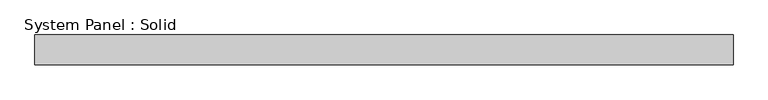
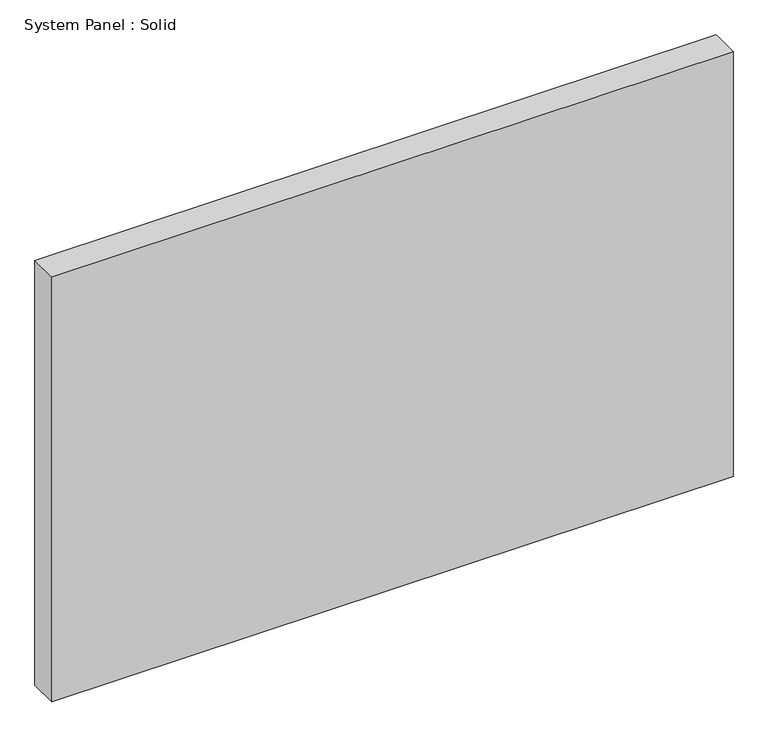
"""IFC4 building model written with IfcOpenShell, lengths in millimetres: plate geometry, System Panel : Solid."""

from ifc_helpers import new_model, si_unit, origin, origin_with_axes, place, context, project, spatial, polyline, outline, extrude, source, transform, mapped, element, save


def system_panel_solid_281aa57f(model_context):
    return source(origin(), model_context, "Body", "SweptSolid", [
        extrude(outline(polyline([(701.1238281, -49.5), (-701.1238281, -49.5), (-701.1238281, 10.5), (701.1238281, 10.5), (701.1238281, -49.5)])), origin_with_axes(), (0.0, 0.0, 1.0), 925.0),
    ])


if __name__ == "__main__":
    model = new_model("IFC4")
    model_context = context("Model", 3, world=origin())
    ifc_project = project(units=[si_unit("LENGTHUNIT", "METRE", prefix="MILLI")], contexts=[model_context])
    site = spatial("IfcSite", under=ifc_project)
    building = spatial("IfcBuilding", under=site)
    placement = place(None, origin())
    system_panel_solid_shape = system_panel_solid_281aa57f(model_context)
    element("IfcPlate", 1, ObjectType="System Panel : Solid", at=placement, inside=building, context=model_context, shape_type="MappedRepresentation", body=[
        mapped(system_panel_solid_shape, transform((0.0, 0.0, 0.0), x_axis=(1.0, 0.0, 0.0), y_axis=(0.0, 1.0, 0.0), z_axis=(0.0, 0.0, 1.0))),
    ])
    save(model, "model.ifc")
